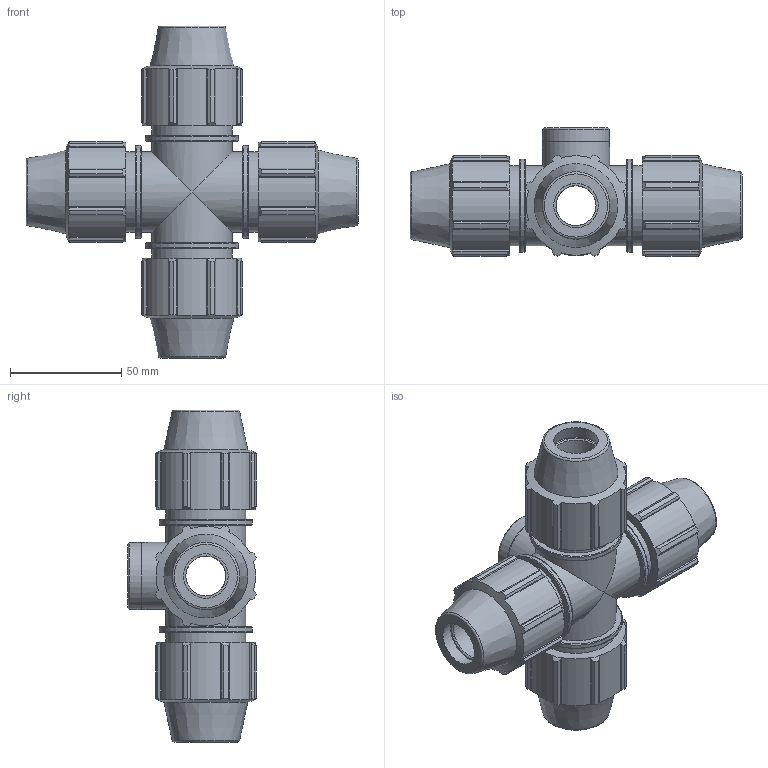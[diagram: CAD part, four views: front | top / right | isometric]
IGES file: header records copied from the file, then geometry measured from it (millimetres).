
Global section: file name: 075400020007_185400020007_0754060200070A.ipt; native system: Autodesk Inventor 2015; preprocessor: unknown; author: Кирилл,,11,0; organization: 20170224.180708; date: 20170608.042250; units: millimetre
Bounding box: 149 x 57.58 x 149 mm (x, y, z)
Volume: 244238.5 mm3; surface area: 61770.5 mm2
Topology: 1 solids, 1 shells, 305 faces, 872 edges, 588 vertices
Faces by surface type: plane 155, cylinder 78, cone 42, revolution 30
Full cylindrical faces by diameter (mm): 30.146 x2, 36 x8, 41.76 x4
